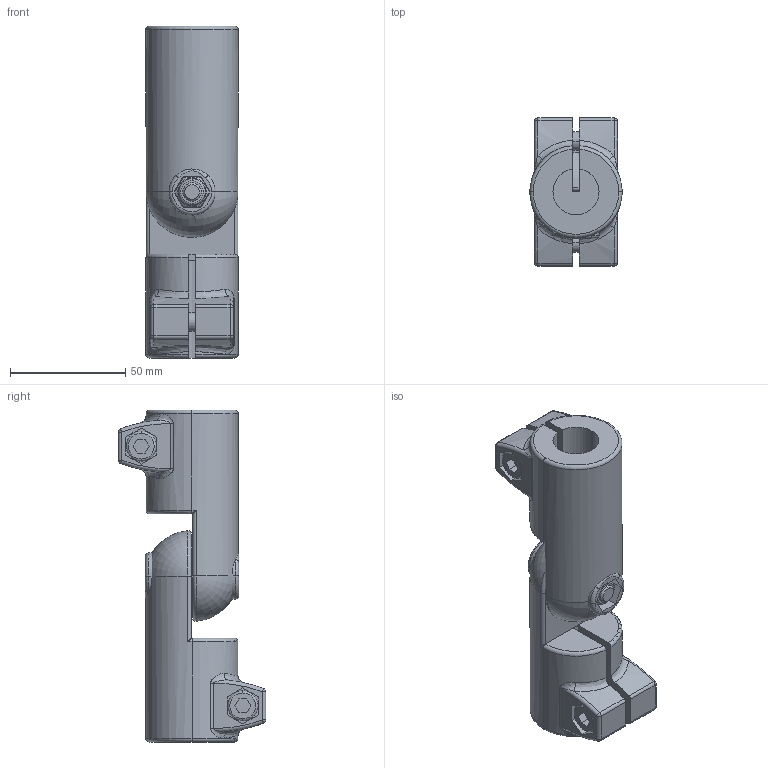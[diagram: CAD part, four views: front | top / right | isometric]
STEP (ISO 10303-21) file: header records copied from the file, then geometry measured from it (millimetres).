
FILE_DESCRIPTION (( 'STEP AP214' ), '1' );
FILE_NAME ('286-B20-B20-T-2-BL.step', '2021-12-02T12:13:22', ( '' ), ( '' ), 'SwSTEP 2.0', 'SolidWorks 2019', '' );
FILE_SCHEMA (( 'AUTOMOTIVE_DESIGN' ));
Length unit declared in the file: millimetre
Products named in the file (3): WB276_1^WB286_B20-AV-2-BL; WB276^WB286_B20-IV-2-BL; 286-B20-B20-T-2-BL
Assembly tree (2 placements, depth 2):
  286-B20-B20-T-2-BL
    WB276^WB286_B20-IV-2-BL
    WB276_1^WB286_B20-AV-2-BL
Bounding box: 40 x 64 x 144 mm (x, y, z)
Volume: 148913 mm3; surface area: 42768.4 mm2
Topology: 2 solids, 2 shells, 514 faces, 1304 edges, 814 vertices
Faces by surface type: plane 304, cylinder 108, torus 50, cone 24, bspline 20, sphere 8
Entity records: 19158 total; most frequent: CARTESIAN_POINT 5891, ORIENTED_EDGE 2592, DIRECTION 2422, EDGE_CURVE 1296, AXIS2_PLACEMENT_3D 931, VERTEX_POINT 814, VECTOR 560, LINE 560
